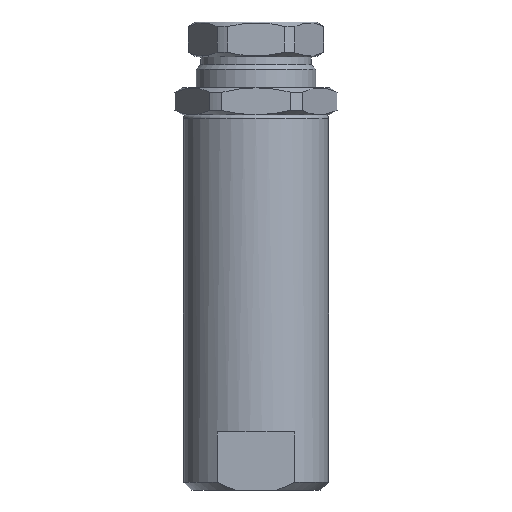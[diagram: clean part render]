
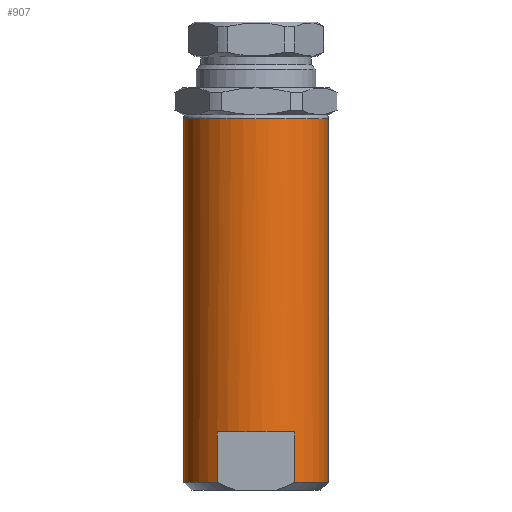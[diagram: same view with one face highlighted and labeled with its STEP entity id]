
A CAD part, front view. The second image highlights one B-rep face of the part: STEP entity #907.
In plain terms, the highlighted cylindrical face has radius 18.75 mm (diameter 37.5 mm), a partial arc.
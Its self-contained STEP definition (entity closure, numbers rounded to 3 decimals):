
#33 = ORIENTED_EDGE ( 'NONE', *, *, #1735, .T. ) ;
#42 = DIRECTION ( 'NONE',  ( 0., 0., 1. ) ) ;
#86 = CIRCLE ( 'NONE', #246, 18.75 ) ;
#96 = VERTEX_POINT ( 'NONE', #1190 ) ;
#145 = ORIENTED_EDGE ( 'NONE', *, *, #1498, .T. ) ;
#190 = EDGE_CURVE ( 'NONE', #1763, #674, #1982, .T. ) ;
#211 = CIRCLE ( 'NONE', #655, 18.75 ) ;
#246 = AXIS2_PLACEMENT_3D ( 'NONE', #492, #1254, #2047 ) ;
#254 = CIRCLE ( 'NONE', #1985, 18.75 ) ;
#278 = CARTESIAN_POINT ( 'NONE',  ( 9.977, -15.875, -46.5 ) ) ;
#296 = VECTOR ( 'NONE', #597, 1000. ) ;
#317 = CARTESIAN_POINT ( 'NONE',  ( 18.75, 0., 48.5 ) ) ;
#325 = VECTOR ( 'NONE', #715, 1000. ) ;
#438 = DIRECTION ( 'NONE',  ( 0., 0., 1. ) ) ;
#492 = CARTESIAN_POINT ( 'NONE',  ( 0., 0., -33.5 ) ) ;
#511 = CARTESIAN_POINT ( 'NONE',  ( -9.977, -15.875, -46.5 ) ) ;
#528 = AXIS2_PLACEMENT_3D ( 'NONE', #2284, #1908, #2091 ) ;
#597 = DIRECTION ( 'NONE',  ( 0., 0., 1. ) ) ;
#600 = EDGE_LOOP ( 'NONE', ( #1316, #33, #1701, #832, #2291, #1230, #145, #1297 ) ) ;
#611 = AXIS2_PLACEMENT_3D ( 'NONE', #1484, #2237, #884 ) ;
#655 = AXIS2_PLACEMENT_3D ( 'NONE', #1580, #42, #2149 ) ;
#674 = VERTEX_POINT ( 'NONE', #1341 ) ;
#715 = DIRECTION ( 'NONE',  ( 0., 0., -1. ) ) ;
#797 = EDGE_CURVE ( 'NONE', #1715, #96, #2330, .T. ) ;
#801 = VECTOR ( 'NONE', #1080, 1000. ) ;
#811 = DIRECTION ( 'NONE',  ( 1., 0., 0. ) ) ;
#812 = CARTESIAN_POINT ( 'NONE',  ( 9.977, -15.875, 48.5 ) ) ;
#832 = ORIENTED_EDGE ( 'NONE', *, *, #2380, .F. ) ;
#884 = DIRECTION ( 'NONE',  ( 1., 0., 0. ) ) ;
#907 = ADVANCED_FACE ( 'NONE', ( #2050 ), #2245, .T. ) ;
#911 = LINE ( 'NONE', #2478, #325 ) ;
#996 = CARTESIAN_POINT ( 'NONE',  ( -9.977, -15.875, -33.5 ) ) ;
#1080 = DIRECTION ( 'NONE',  ( 0., 0., 1. ) ) ;
#1184 = VECTOR ( 'NONE', #438, 1000. ) ;
#1190 = CARTESIAN_POINT ( 'NONE',  ( -18.75, 0., 47.5 ) ) ;
#1196 = CARTESIAN_POINT ( 'NONE',  ( -18.75, 0., 48.5 ) ) ;
#1230 = ORIENTED_EDGE ( 'NONE', *, *, #1813, .T. ) ;
#1254 = DIRECTION ( 'NONE',  ( 0., 0., -1. ) ) ;
#1297 = ORIENTED_EDGE ( 'NONE', *, *, #1608, .T. ) ;
#1316 = ORIENTED_EDGE ( 'NONE', *, *, #797, .F. ) ;
#1341 = CARTESIAN_POINT ( 'NONE',  ( 9.977, -15.875, -33.5 ) ) ;
#1484 = CARTESIAN_POINT ( 'NONE',  ( 0., 0., 48.5 ) ) ;
#1492 = CARTESIAN_POINT ( 'NONE',  ( 18.75, 0., -46.5 ) ) ;
#1498 = EDGE_CURVE ( 'NONE', #2323, #2151, #2219, .T. ) ;
#1507 = VERTEX_POINT ( 'NONE', #511 ) ;
#1580 = CARTESIAN_POINT ( 'NONE',  ( 0., 0., -46.5 ) ) ;
#1608 = EDGE_CURVE ( 'NONE', #2151, #96, #2182, .T. ) ;
#1671 = CARTESIAN_POINT ( 'NONE',  ( 18.75, 0., 47.5 ) ) ;
#1701 = ORIENTED_EDGE ( 'NONE', *, *, #2156, .F. ) ;
#1715 = VERTEX_POINT ( 'NONE', #2386 ) ;
#1735 = EDGE_CURVE ( 'NONE', #1715, #1507, #254, .T. ) ;
#1763 = VERTEX_POINT ( 'NONE', #278 ) ;
#1797 = CARTESIAN_POINT ( 'NONE',  ( 0., 0., -46.5 ) ) ;
#1808 = VERTEX_POINT ( 'NONE', #996 ) ;
#1813 = EDGE_CURVE ( 'NONE', #1763, #2323, #211, .T. ) ;
#1908 = DIRECTION ( 'NONE',  ( 0., 0., -1. ) ) ;
#1982 = LINE ( 'NONE', #812, #1184 ) ;
#1985 = AXIS2_PLACEMENT_3D ( 'NONE', #1797, #2154, #811 ) ;
#2047 = DIRECTION ( 'NONE',  ( -1., 0., 0. ) ) ;
#2050 = FACE_OUTER_BOUND ( 'NONE', #600, .T. ) ;
#2091 = DIRECTION ( 'NONE',  ( -1., 0., 0. ) ) ;
#2149 = DIRECTION ( 'NONE',  ( 1., 0., 0. ) ) ;
#2151 = VERTEX_POINT ( 'NONE', #1671 ) ;
#2154 = DIRECTION ( 'NONE',  ( 0., 0., 1. ) ) ;
#2156 = EDGE_CURVE ( 'NONE', #1808, #1507, #911, .T. ) ;
#2182 = CIRCLE ( 'NONE', #528, 18.75 ) ;
#2219 = LINE ( 'NONE', #317, #801 ) ;
#2237 = DIRECTION ( 'NONE',  ( 0., 0., 1. ) ) ;
#2245 = CYLINDRICAL_SURFACE ( 'NONE', #611, 18.75 ) ;
#2284 = CARTESIAN_POINT ( 'NONE',  ( 0., 0., 47.5 ) ) ;
#2291 = ORIENTED_EDGE ( 'NONE', *, *, #190, .F. ) ;
#2323 = VERTEX_POINT ( 'NONE', #1492 ) ;
#2330 = LINE ( 'NONE', #1196, #296 ) ;
#2380 = EDGE_CURVE ( 'NONE', #674, #1808, #86, .T. ) ;
#2386 = CARTESIAN_POINT ( 'NONE',  ( -18.75, 0., -46.5 ) ) ;
#2478 = CARTESIAN_POINT ( 'NONE',  ( -9.977, -15.875, 48.5 ) ) ;
